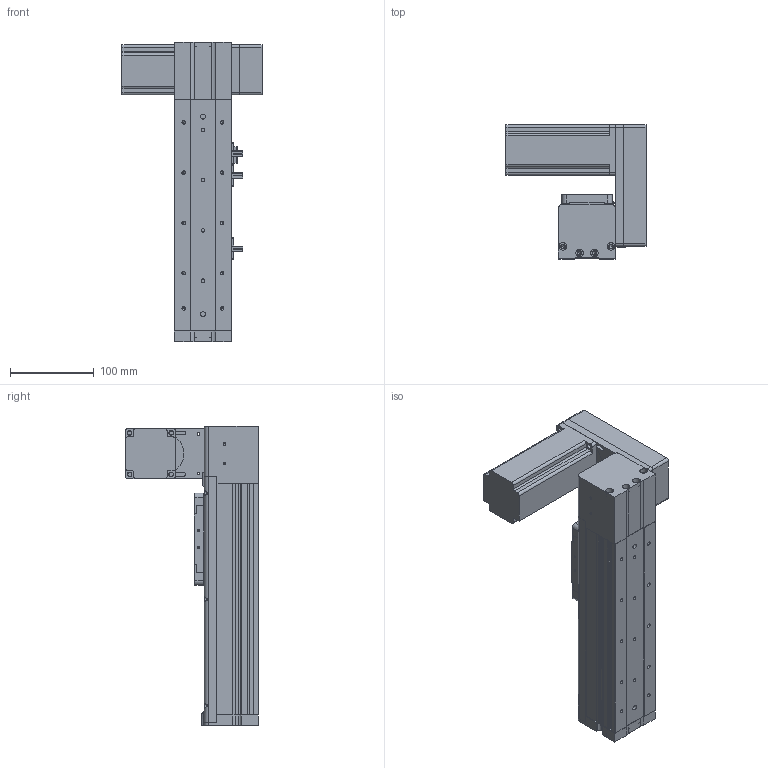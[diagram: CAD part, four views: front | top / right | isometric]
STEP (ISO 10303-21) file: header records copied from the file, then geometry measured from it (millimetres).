
FILE_DESCRIPTION (( 'STEP AP214' ), '1' );
FILE_NAME ('KSD68BS-S100-MLU-CR.STEP', '2019-08-27T07:50:28', ( '微软用户' ), ( '微软中国' ), 'SwSTEP 2.0', 'SolidWorks 2014', '' );
FILE_SCHEMA (( 'AUTOMOTIVE_DESIGN' ));
Length unit declared in the file: millimetre
Products named in the file (14): KSD68BS 100行程底板全封闭; KSD68BS-S100-MLU-CR; 68遵裔啣揤啣1; 68宽单导轨全封闭丝杆传动安装板1防护罩; KSD68BS 100行程侧板全封闭; KSD68BS 100行程盖板全封闭; 68宽单导轨全封闭同步带端板; 68单导轨全封闭同步带电机座左; 68单导轨全封闭同步带安装板; 悵誘欶奻狟殏; 68宽马达安装板连板上折同步带; 感应片68宽全封闭; U倰嫖萇EEㄜSX672; 台达ECMA－C20604AS伺服电机（400W)
Assembly tree (17 placements, depth 2):
  KSD68BS-S100-MLU-CR
    KSD68BS 100行程底板全封闭
    台达ECMA－C20604AS伺服电机（400W)
    U倰嫖萇EEㄜSX672  x3
    感应片68宽全封闭
    68宽马达安装板连板上折同步带
    悵誘欶奻狟殏
    68单导轨全封闭同步带安装板
    68单导轨全封闭同步带电机座左
    68宽单导轨全封闭同步带端板
    KSD68BS 100行程侧板全封闭  x2
    68宽单导轨全封闭丝杆传动安装板1防护罩
    68遵裔啣揤啣1  x2
    KSD68BS 100行程盖板全封闭
Bounding box: 167.2 x 159.5 x 358.1 mm (x, y, z)
Volume: 1323588.2 mm3; surface area: 400133.3 mm2
Topology: 18 solids, 18 shells, 1363 faces, 3829 edges, 2464 vertices
Faces by surface type: plane 621, cylinder 610, cone 132
Entity records: 42015 total; most frequent: CARTESIAN_POINT 7091, DIRECTION 6360, ORIENTED_EDGE 6102, EDGE_CURVE 3051, AXIS2_PLACEMENT_3D 2257, VERTEX_POINT 2002, LINE 1846, VECTOR 1846
